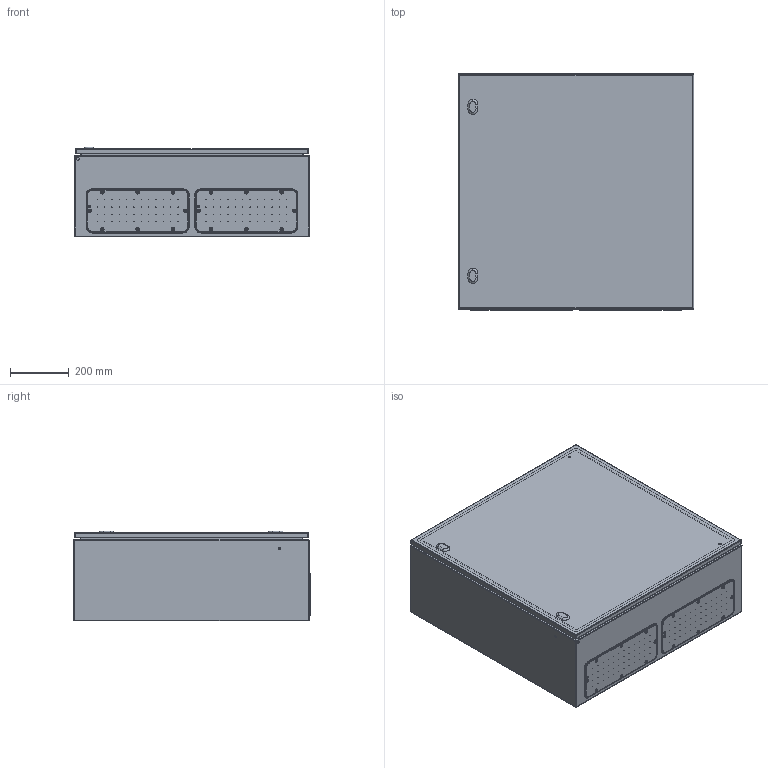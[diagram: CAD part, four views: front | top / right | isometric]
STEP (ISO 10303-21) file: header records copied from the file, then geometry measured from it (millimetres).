
FILE_DESCRIPTION (( 'STEP AP203' ), '1' );
FILE_NAME ('0800x0800x0300 dx.step', '2021-09-07T06:42:21', ( '' ), ( '' ), 'SwSTEP 2.0', 'SolidWorks 2021', '' );
FILE_SCHEMA (( 'CONFIG_CONTROL_DESIGN' ));
Length unit declared in the file: millimetre
Products named in the file (7): AR_ECOR_flangia IC_04; AR_ECOR_porta_singola_0800x0800; 0800x0800x0300 dx; AR_ECOR_montaggio_porta_singola_0800x0800; AR_ECOR_involucro_0800x0800x0300; AR_ECOR_Piastra_21; AR_ECOR_chiusura_std_STD
Assembly tree (8 placements, depth 3):
  0800x0800x0300 dx
    AR_ECOR_involucro_0800x0800x0300
    AR_ECOR_montaggio_porta_singola_0800x0800
      AR_ECOR_porta_singola_0800x0800
      AR_ECOR_chiusura_std_STD  x2
    AR_ECOR_flangia IC_04  x2
    AR_ECOR_Piastra_21
Bounding box: 800 x 804 x 305 mm (x, y, z)
Volume: 5371157.3 mm3; surface area: 6001859.5 mm2
Topology: 7 solids, 7 shells, 1163 faces, 2821 edges, 1782 vertices
Faces by surface type: cylinder 561, plane 348, cone 108, torus 78, bspline 52, sphere 16
Entity records: 26783 total; most frequent: CARTESIAN_POINT 5402, DIRECTION 4585, ORIENTED_EDGE 4092, EDGE_CURVE 2046, AXIS2_PLACEMENT_3D 1818, VERTEX_POINT 1300, EDGE_LOOP 1102, CIRCLE 1001
